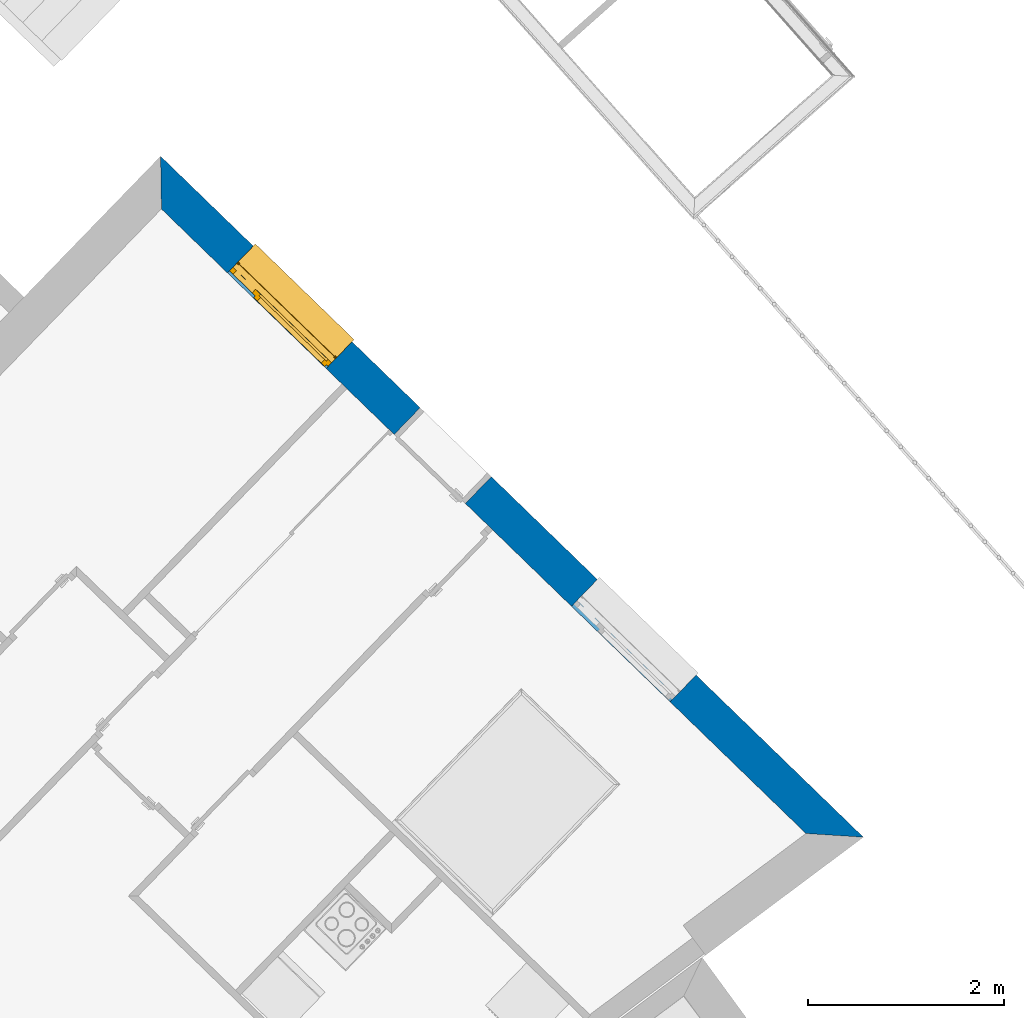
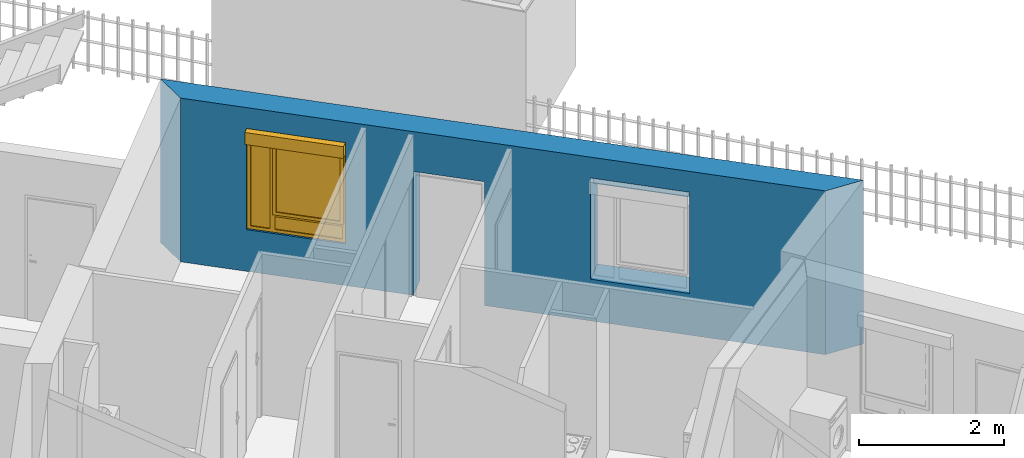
# One storey, part 23 of 195: 1 wall, 1 window, 3 openings.
"""IFC2X3 building model written with IfcOpenShell, lengths in metres."""

import ifcopenshell
import ifcopenshell.guid

model = None  # the IFC model being written
_history = None  # IfcOwnerHistory: only IFC2X3 demands one
_inside = {}  # id of a spatial element -> (the spatial element, [elements in it])
_under = {}  # id of a project, library or spatial element -> (it, [spatial elements below it])
_declared = {}  # id of a project -> (the project, [libraries it declares])
_typed = {}  # id of a type object -> (the type object, [elements of that type])
_made_of = {}  # id of a material, layer set ... -> (it, [elements and type objects made of it])


def new_model(schema):
    """Start an empty IFC model of exactly this schema.

    Asked for "IFC4X3", IfcOpenShell would pick the latest addendum, in which some entities
    have other attributes; the version numbers below select the first issue.
    IFC2X3 requires an IfcOwnerHistory on every rooted entity: one is made here for all.
    """
    global model, _history
    if schema == "IFC4X3":
        model = ifcopenshell.file(schema_version=(4, 3, 0, 0))
    else:
        model = ifcopenshell.file(schema=schema)
    _inside.clear()
    _under.clear()
    _declared.clear()
    _typed.clear()
    _made_of.clear()
    _history = None
    if model.schema == "IFC2X3":
        org = make("IfcOrganization", Name="unknown")
        user = make(
            "IfcPersonAndOrganization",
            ThePerson=make("IfcPerson", FamilyName="unknown"),
            TheOrganization=org,
        )
        app = make(
            "IfcApplication",
            ApplicationDeveloper=org,
            Version="unknown",
            ApplicationFullName="unknown",
            ApplicationIdentifier="unknown",
        )
        _history = make(
            "IfcOwnerHistory",
            OwningUser=user,
            OwningApplication=app,
            ChangeAction="ADDED",
            CreationDate=0,
        )
    return model


def make(cls, **values):
    """One entity of the class cls with the attributes given. An attribute that is None is left unset."""
    return model.create_entity(
        cls, **{name: value for name, value in values.items() if value is not None}
    )


def entity(cls, *values):
    """Any entity or typed value of the class cls, its attributes in the order of the schema. None: left unset."""
    e = model.create_entity(cls)
    for i, value in enumerate(values):
        if value is not None:
            e[i] = value
    return e


def rooted(cls, **values):
    """An entity with a GlobalId (a new one), such as an element, a storey or a relation."""
    return make(cls, GlobalId=ifcopenshell.guid.new(), OwnerHistory=_history, **values)


def si_unit(unit_type, name, prefix=None):
    """IfcSIUnit, for example si_unit("LENGTHUNIT", "METRE", prefix="MILLI")."""
    return make("IfcSIUnit", UnitType=unit_type, Prefix=prefix, Name=name)


def converted_unit(unit_type, name, factor, base, dimensions=None, offset=None):
    """IfcConversionBasedUnit, such as the inch: factor (a typed value) times the base unit."""
    return make(
        "IfcConversionBasedUnit"
        if offset is None
        else "IfcConversionBasedUnitWithOffset",
        ConversionOffset=offset,
        Dimensions=None
        if dimensions is None
        else entity("IfcDimensionalExponents", *dimensions),
        UnitType=unit_type,
        Name=name,
        ConversionFactor=make(
            "IfcMeasureWithUnit", ValueComponent=factor, UnitComponent=base
        ),
    )


def derived_unit(unit_type, elements):
    """IfcDerivedUnit: a product of units, each with its exponent."""
    return make(
        "IfcDerivedUnit",
        Elements=[
            make("IfcDerivedUnitElement", Unit=unit, Exponent=power)
            for unit, power in elements
        ],
        UnitType=unit_type,
    )


def money_unit(currency):
    """IfcMonetaryUnit."""
    return make("IfcMonetaryUnit", Currency=currency)


def assignment(units):
    """IfcUnitAssignment: the units of a project."""
    return None if units is None else make("IfcUnitAssignment", Units=units)


def point(xyz):
    """IfcCartesianPoint."""
    return None if xyz is None else make("IfcCartesianPoint", Coordinates=xyz)


def direction(xyz):
    """IfcDirection."""
    return None if xyz is None else make("IfcDirection", DirectionRatios=xyz)


def frame(location, z_axis=None, x_axis=None):
    """IfcAxis2Placement3D, a coordinate frame: its origin and axes. An axis left out is left unset."""
    return make(
        "IfcAxis2Placement3D",
        Location=point(location),
        Axis=direction(z_axis),
        RefDirection=direction(x_axis),
    )


def frame_2d(location, x_axis=None):
    """IfcAxis2Placement2D, a coordinate frame in the plane: its origin and x axis."""
    return make(
        "IfcAxis2Placement2D", Location=point(location), RefDirection=direction(x_axis)
    )


def origin_with_axes():
    """The frame at (0, 0, 0) with the z axis (0, 0, 1) and the x axis (1, 0, 0) written out."""
    return frame((0.0, 0.0, 0.0), z_axis=(0.0, 0.0, 1.0), x_axis=(1.0, 0.0, 0.0))


def origin_2d_with_axis():
    """The frame at (0, 0) in the plane with the x axis (1, 0) written out."""
    return frame_2d((0.0, 0.0), x_axis=(1.0, 0.0))


def place(relative_to, where):
    """IfcLocalPlacement: puts the frame where relative to a parent placement (None: the world)."""
    return make(
        "IfcLocalPlacement", PlacementRelTo=relative_to, RelativePlacement=where
    )


def context(
    kind, dimensions, precision=None, world=None, true_north=None, identifier=None
):
    """IfcGeometricRepresentationContext, for example the 3D "Model" context."""
    return make(
        "IfcGeometricRepresentationContext",
        ContextIdentifier=identifier,
        ContextType=kind,
        CoordinateSpaceDimension=dimensions,
        Precision=precision,
        WorldCoordinateSystem=world,
        TrueNorth=true_north,
    )


def subcontext(parent, identifier, kind, view, scale=None):
    """IfcGeometricRepresentationSubContext, for example "Body" below "Model"."""
    return make(
        "IfcGeometricRepresentationSubContext",
        ContextIdentifier=identifier,
        ContextType=kind,
        ParentContext=parent,
        TargetScale=scale,
        TargetView=view,
    )


def project(units=None, contexts=None):
    """IfcProject with its units and contexts."""
    return rooted(
        "IfcProject",
        Name="project",
        RepresentationContexts=contexts,
        UnitsInContext=assignment(units),
    )


def spatial(cls, under=None, at=None, **own):
    """A site, building, storey or space (cls), placed at a placement, below another one or the project."""
    s = rooted(cls, ObjectPlacement=at, **own)
    if under is not None:
        _under.setdefault(under.id(), (under, []))[1].append(s)
    return s


def polyline(points):
    """IfcPolyline through the points."""
    return make("IfcPolyline", Points=[point(p) for p in points])


def profile(cls, at=None, kind="AREA", **sizes):
    """A parametric profile (cls). Its sizes go by their IFC names, for example OverallWidth=200.0."""
    return make(cls, ProfileType=kind, Position=at, **sizes)


def rectangle(**sizes):
    """IfcRectangleProfileDef."""
    return profile("IfcRectangleProfileDef", **sizes)


def outline(outer, holes=None, kind="AREA"):
    """IfcArbitraryClosedProfileDef: a profile drawn as a closed curve; with holes, ...WithVoids."""
    if holes is None:
        return make("IfcArbitraryClosedProfileDef", ProfileType=kind, OuterCurve=outer)
    return make(
        "IfcArbitraryProfileDefWithVoids",
        ProfileType=kind,
        OuterCurve=outer,
        InnerCurves=holes,
    )


def extrude(swept, where, along, depth):
    """IfcExtrudedAreaSolid: the profile swept, set in the frame where, extruded along a direction by depth."""
    return make(
        "IfcExtrudedAreaSolid",
        SweptArea=swept,
        Position=where,
        ExtrudedDirection=direction(along),
        Depth=depth,
    )


def faces_of(points, faces, orient=None, outer=None):
    """IfcFace entities. A face is a list of loops; a loop is a list of indices into points, from 0.

    orient and outer hold one flag for each loop. By default every Orientation is true, the
    first loop of a face is its IfcFaceOuterBound and the others are IfcFaceBound.
    """
    made = []
    for i, loops in enumerate(faces):
        bounds = []
        for j, loop in enumerate(loops):
            is_outer = j == 0 if outer is None else outer[i][j]
            bounds.append(
                make(
                    "IfcFaceOuterBound" if is_outer else "IfcFaceBound",
                    Bound=make("IfcPolyLoop", Polygon=[points[k] for k in loop]),
                    Orientation=True if orient is None else orient[i][j],
                )
            )
        made.append(make("IfcFace", Bounds=bounds))
    return made


def open_shell(faces, orient=None, outer=None):
    """The faces of one IfcOpenShell. surface_model builds it on its shared points."""
    return ("IfcOpenShell", faces, orient, outer)


def faceted_brep(points, faces, orient=None, outer=None, voids=None):
    """IfcFacetedBrep: a solid bounded by flat faces; with voids (closed shells), ...WithVoids."""
    shared = [point(p) for p in points]
    hull = make("IfcClosedShell", CfsFaces=faces_of(shared, faces, orient, outer))
    if voids is None:
        return make("IfcFacetedBrep", Outer=hull)
    return make(
        "IfcFacetedBrepWithVoids",
        Outer=hull,
        Voids=[
            make(cls, CfsFaces=faces_of(shared, fs, o, b)) for cls, fs, o, b in voids
        ],
    )


def surface_model(cls, points, shells):
    """IfcFaceBasedSurfaceModel or IfcShellBasedSurfaceModel (cls): surfaces that need not close."""
    shared = [point(p) for p in points]
    made = [make(c, CfsFaces=faces_of(shared, fs, o, b)) for c, fs, o, b in shells]
    if cls == "IfcFaceBasedSurfaceModel":
        return make(cls, FbsmFaces=made)
    return make(cls, SbsmBoundary=made)


def shape(context_of_items, identifier, shape_type, items):
    """IfcShapeRepresentation: the items that make up one representation, for example the "Body"."""
    return make(
        "IfcShapeRepresentation",
        ContextOfItems=context_of_items,
        RepresentationIdentifier=identifier,
        RepresentationType=shape_type,
        Items=items,
    )


def source(mapping_origin, context_of_items, identifier, shape_type, items):
    """IfcRepresentationMap: a shape defined once, which mapped items show again and again."""
    return make(
        "IfcRepresentationMap",
        MappingOrigin=mapping_origin,
        MappedRepresentation=shape(context_of_items, identifier, shape_type, items),
    )


def transform(
    local_origin,
    x_axis=None,
    y_axis=None,
    z_axis=None,
    scale=None,
    scale2=None,
    scale3=None,
    uniform=True,
):
    """IfcCartesianTransformationOperator3D, or its non-uniform kind. x_axis, y_axis, z_axis: its Axis1, 2, 3."""
    if uniform:
        return make(
            "IfcCartesianTransformationOperator3D",
            Axis1=direction(x_axis),
            Axis2=direction(y_axis),
            LocalOrigin=point(local_origin),
            Scale=scale,
            Axis3=direction(z_axis),
        )
    return make(
        "IfcCartesianTransformationOperator3DnonUniform",
        Axis1=direction(x_axis),
        Axis2=direction(y_axis),
        LocalOrigin=point(local_origin),
        Scale=scale,
        Axis3=direction(z_axis),
        Scale2=scale2,
        Scale3=scale3,
    )


def mapped(mapping_source, mapping_target):
    """IfcMappedItem: shows the shape of a source again, moved by a transform."""
    return make(
        "IfcMappedItem", MappingSource=mapping_source, MappingTarget=mapping_target
    )


def material(Name=None, Category=None):
    """IfcMaterial."""
    return make("IfcMaterial", Name=Name, Category=Category)


def layer(
    of_material, thickness, ventilated=None, Name=None, Category=None, Priority=None
):
    """IfcMaterialLayer: one layer of a wall or slab, of a material (None: an air gap)."""
    return make(
        "IfcMaterialLayer",
        Material=of_material,
        LayerThickness=thickness,
        IsVentilated=ventilated,
        Name=Name,
        Category=Category,
        Priority=Priority,
    )


def layer_set(layers, Name=None):
    """IfcMaterialLayerSet."""
    return make("IfcMaterialLayerSet", MaterialLayers=layers, LayerSetName=Name)


def layer_usage(for_layer_set, set_direction, sense, offset, extent=None):
    """IfcMaterialLayerSetUsage: how a layer set lies in its element."""
    return make(
        "IfcMaterialLayerSetUsage",
        ForLayerSet=for_layer_set,
        LayerSetDirection=set_direction,
        DirectionSense=sense,
        OffsetFromReferenceLine=offset,
        ReferenceExtent=extent,
    )


def made_of(thing, what):
    """Note that an element or type object is made of a material, layer set ...; save() writes the relation."""
    if what is not None:
        _made_of.setdefault(what.id(), (what, []))[1].append(thing)
    return thing


def type_object(cls, material=None, **own):
    """A type object (cls), such as IfcWallType, which elements share."""
    return made_of(rooted(cls, **own), material)


def element(
    cls,
    number,
    at=None,
    inside=None,
    cuts=None,
    type_object=None,
    material=None,
    context=None,
    identifier="Body",
    shape_type=None,
    held_by="IfcProductDefinitionShape",
    body=None,
    shapes=None,
    **own,
):
    """One element of the class cls, such as IfcWall. Its Tag is "e" and its number.

    at: its placement. inside: the storey or other place that contains it. cuts: it is an
    opening in that element (IfcRelVoidsElement). A single representation is given by context,
    identifier, shape_type and body (its items); several are given by shapes. held_by: the class
    of the entity that holds the representations. save() writes the other relations.
    """
    e = rooted(cls, Tag="e%d" % number, ObjectPlacement=at, **own)
    if body is not None:
        shapes = [shape(context, identifier, shape_type, body)]
    if shapes is not None:
        e.Representation = make(held_by, Representations=shapes)
    if inside is not None:
        _inside.setdefault(inside.id(), (inside, []))[1].append(e)
    if cuts is not None:
        rooted(
            "IfcRelVoidsElement", RelatingBuildingElement=cuts, RelatedOpeningElement=e
        )
    if type_object is not None:
        _typed.setdefault(type_object.id(), (type_object, []))[1].append(e)
    return made_of(e, material)


def fill(opening, filler):
    """IfcRelFillsElement: the door or window that sits in an opening."""
    return rooted(
        "IfcRelFillsElement",
        RelatingOpeningElement=opening,
        RelatedBuildingElement=filler,
    )


def aggregate(whole, parts):
    """IfcRelAggregates: a whole, such as a stair, and the parts it consists of."""
    return rooted("IfcRelAggregates", RelatingObject=whole, RelatedObjects=parts)


def save(model, path):
    """Write the relations noted so far, then the file.

    IfcRelAggregates (storeys below a building ...), IfcRelContainedInSpatialStructure (elements
    in a storey), IfcRelDefinesByType, IfcRelAssociatesMaterial and IfcRelDeclares: one each for
    every whole, place, type object, material and project.
    """
    for whole, parts in _under.values():
        aggregate(whole, parts)
    for where, things in _inside.values():
        rooted(
            "IfcRelContainedInSpatialStructure",
            RelatedElements=things,
            RelatingStructure=where,
        )
    for kind, things in _typed.values():
        rooted("IfcRelDefinesByType", RelatedObjects=things, RelatingType=kind)
    for what, things in _made_of.values():
        rooted("IfcRelAssociatesMaterial", RelatedObjects=things, RelatingMaterial=what)
    for by, libraries in _declared.values():
        rooted("IfcRelDeclares", RelatingContext=by, RelatedDefinitions=libraries)
    model.write(path)


model = new_model("IFC2X3")

# Units and contexts
model_context = context("Model", 3, precision=1e-05, world=origin_with_axes(), true_north=direction((0.0, 1.0)))
body_context = subcontext(model_context, "Body", "Model", "MODEL_VIEW")
ifc_project = project(units=[si_unit("LENGTHUNIT", "METRE"), si_unit("AREAUNIT", "SQUARE_METRE"), si_unit("VOLUMEUNIT", "CUBIC_METRE"), converted_unit("PLANEANGLEUNIT", "DEGREE", entity("IfcPlaneAngleMeasure", 0.0174532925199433), si_unit("PLANEANGLEUNIT", "RADIAN"), dimensions=[0, 0, 0, 0, 0, 0, 0]), money_unit("CHF"), converted_unit("TIMEUNIT", "Year", entity("IfcTimeMeasure", 31557600.0), si_unit("TIMEUNIT", "SECOND"), dimensions=[0, 0, 1, 0, 0, 0, 0]), si_unit("MASSUNIT", "GRAM", prefix="KILO"), si_unit("THERMODYNAMICTEMPERATUREUNIT", "DEGREE_CELSIUS"), si_unit("LUMINOUSINTENSITYUNIT", "LUMEN"), si_unit("ENERGYUNIT", "JOULE", prefix="MEGA"), derived_unit("THERMALCONDUCTANCEUNIT", [(si_unit("POWERUNIT", "WATT"), 1), (si_unit("LENGTHUNIT", "METRE"), -1), (si_unit("THERMODYNAMICTEMPERATUREUNIT", "KELVIN"), -1)]), derived_unit("SPECIFICHEATCAPACITYUNIT", [(si_unit("ENERGYUNIT", "JOULE"), 1), (si_unit("MASSUNIT", "GRAM", prefix="KILO"), -1), (si_unit("THERMODYNAMICTEMPERATUREUNIT", "KELVIN"), -1)]), derived_unit("MASSDENSITYUNIT", [(si_unit("MASSUNIT", "GRAM", prefix="KILO"), 1), (si_unit("VOLUMEUNIT", "CUBIC_METRE"), -1)])], contexts=[model_context])

# Site, building, storey
site_placement = place(None, origin_with_axes())
site = spatial("IfcSite", under=ifc_project, at=site_placement, Name="Site", CompositionType="ELEMENT")
building_placement = place(site_placement, origin_with_axes())
building = spatial("IfcBuilding", under=site, at=building_placement, Name="Bâtiment", CompositionType="ELEMENT")
storey_placement = place(building_placement, origin_with_axes())
storey = spatial("IfcBuildingStorey", under=building, at=storey_placement, Name="rdc", CompositionType="ELEMENT", Elevation=0.0)

# Wall, openings, window
ifc_material_1 = material(Name="Parpaing 312445824")
ifc_layer_1 = layer(ifc_material_1, 0.22, ventilated="UNKNOWN")
ifc_material_2 = material(Name="Isolant styromousse 301821074")
ifc_layer_2 = layer(ifc_material_2, 0.16, ventilated="UNKNOWN")
ifc_layer_set = layer_set([ifc_layer_1, ifc_layer_2], Name="isol int 22+16 0836643197")
ifc_layer_usage = layer_usage(ifc_layer_set, "AXIS2", "NEGATIVE", 0.0)
wall_type = type_object("IfcWallType", Name="isol int 22+16 0836643197 380", PredefinedType="NOTDEFINED")
wall_placement = place(storey_placement, frame((9531.989867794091, -1061.560379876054, 57.7), z_axis=(0.0, 0.0, 1.0), x_axis=(0.7181763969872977, -0.6958610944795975, 0.0)))
wall = element("IfcWallStandardCase", 1, at=wall_placement, inside=storey, type_object=wall_type, material=ifc_layer_usage, Name="Mur-116", context=body_context, shape_type="SweptSolid", body=[
    extrude(outline(polyline([(0.3800000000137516, -0.3799999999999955), (9.524551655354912, -0.3800000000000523), (9.970619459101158, 0.0), (0.0, 0.0), (0.3800000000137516, -0.3799999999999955)])), origin_with_axes(), (0.0, 0.0, 1.0), 2.75),
])
opening_1_placement = place(wall_placement, frame((6.896864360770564, 0.0, 0.7000000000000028), z_axis=(0.0, 0.0, 1.0), x_axis=(1.0, 0.0, 0.0)))
element("IfcOpeningElement", 2, at=opening_1_placement, cuts=wall, Name="Fen-045", context=body_context, shape_type="Brep", body=[
    faceted_brep([(-0.7000000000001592, -0.2200000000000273, 1.5), (0.6999999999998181, -0.2200000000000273, 1.5), (0.6999999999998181, 4.983827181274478, 1.5), (-0.7000000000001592, 4.983827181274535, 1.5), (-0.7000000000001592, -0.2200000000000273, 1.700000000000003), (0.6999999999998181, -0.2200000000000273, 1.700000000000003), (0.6999999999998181, -0.3000000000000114, 1.5), (0.6999999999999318, -0.3000000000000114, 0.0), (0.6999999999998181, 4.983827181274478, 0.0), (-0.7000000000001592, 4.983827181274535, 0.0), (-0.7000000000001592, -0.2999999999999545, 1.5), (-0.7000000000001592, -0.3000000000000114, 0.0), (-0.7000000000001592, -0.4799999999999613, 1.5), (-0.7000000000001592, -0.4799999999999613, 1.700000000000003), (0.6999999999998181, -0.4799999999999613, 1.700000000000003), (0.6999999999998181, -0.4799999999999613, 1.5), (0.6999999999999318, -5.36382718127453, 1.5), (0.6999999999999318, -5.36382718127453, 0.0), (-0.7000000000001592, -5.363827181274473, 0.0), (-0.7000000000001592, -5.363827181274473, 1.5)], [[[0, 1, 2, 3]], [[1, 0, 4, 5]], [[1, 6, 7, 8, 2]], [[2, 8, 9, 3]], [[10, 0, 3, 9, 11]], [[0, 10, 12, 13, 4]], [[4, 13, 14, 5]], [[6, 1, 5, 14, 15]], [[6, 15, 16, 17, 7]], [[7, 11, 9, 8]], [[12, 10, 11, 18, 19]], [[12, 15, 14, 13]], [[15, 12, 19, 16]], [[19, 18, 17, 16]], [[11, 7, 17, 18]]]),
])
opening_2_placement = place(wall_placement, frame((2.01605944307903, 0.0, 0.7000000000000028), z_axis=(0.0, 0.0, 1.0), x_axis=(1.0, 0.0, 0.0)))
opening_2 = element("IfcOpeningElement", 3, at=opening_2_placement, cuts=wall, Name="Fen-045", context=body_context, shape_type="Brep", body=[
    faceted_brep([(-0.7000000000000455, -0.2200000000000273, 1.5), (0.6999999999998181, -0.2200000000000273, 1.5), (0.6999999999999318, 4.983827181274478, 1.5), (-0.7000000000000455, 4.983827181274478, 1.5), (-0.7000000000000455, -0.2200000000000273, 1.700000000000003), (0.6999999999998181, -0.2200000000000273, 1.700000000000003), (0.6999999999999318, -0.3000000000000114, 1.5), (0.6999999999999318, -0.3000000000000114, 0.0), (0.6999999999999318, 4.983827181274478, 0.0), (-0.7000000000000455, 4.983827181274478, 0.0), (-0.7000000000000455, -0.2999999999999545, 1.5), (-0.7000000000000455, -0.3000000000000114, 0.0), (-0.7000000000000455, -0.4799999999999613, 1.5), (-0.7000000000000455, -0.4799999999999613, 1.700000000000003), (0.6999999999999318, -0.4799999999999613, 1.700000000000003), (0.6999999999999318, -0.4799999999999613, 1.5), (0.6999999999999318, -5.363827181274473, 1.5), (0.6999999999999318, -5.363827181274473, 0.0), (-0.7000000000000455, -5.363827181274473, 0.0), (-0.7000000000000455, -5.363827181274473, 1.5)], [[[0, 1, 2, 3]], [[1, 0, 4, 5]], [[1, 6, 7, 8, 2]], [[2, 8, 9, 3]], [[10, 0, 3, 9, 11]], [[0, 10, 12, 13, 4]], [[4, 13, 14, 5]], [[6, 1, 5, 14, 15]], [[6, 15, 16, 17, 7]], [[7, 11, 9, 8]], [[12, 10, 11, 18, 19]], [[12, 15, 14, 13]], [[15, 12, 19, 16]], [[19, 18, 17, 16]], [[11, 7, 17, 18]]]),
])
opening_3_placement = place(wall_placement, frame((4.187148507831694, 0.0, 0.0), z_axis=(0.0, 0.0, 1.0), x_axis=(1.0, 0.0, 0.0)))
element("IfcOpeningElement", 4, at=opening_3_placement, cuts=wall, Name="Por-297", context=body_context, shape_type="SweptSolid", body=[
    extrude(rectangle(XDim=1.01000001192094, YDim=2.079999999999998, at=origin_2d_with_axis()), frame((-5.960487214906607e-09, 0.3799999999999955, 1.039999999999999), z_axis=(0.0, -1.0, 0.0), x_axis=(-1.0, 0.0, 0.0)), (0.0, 0.0, 1.0), 0.76),
])
window_style = type_object("IfcWindowStyle", Name="Fenêtre variable 27", ConstructionType="NOTDEFINED", OperationType="TRIPLE_PANEL_RIGHT", ParameterTakesPrecedence=False, Sizeable=False)
shared_shape = source(origin_with_axes(), body_context, "Body", "SurfaceModel", [
    surface_model("IfcShellBasedSurfaceModel", [(-0.7, -0.05100000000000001, 0.05), (-0.7, -0.05100000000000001, 0.04), (0.7, -0.05100000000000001, 0.04000000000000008), (0.7, -0.05100000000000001, 0.05000000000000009), (-0.7, -0.3799999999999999, 0.02899999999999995), (0.7, -0.3799999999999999, 0.02900000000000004), (-0.7, -0.3799999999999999, 0.008999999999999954), (0.7, -0.3799999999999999, 0.00900000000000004), (-0.7, -0.3699999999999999, 0.01899999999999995), (0.7, -0.3699999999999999, 0.01900000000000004)], [open_shell([[[0, 1, 2, 3]], [[1, 4, 5, 2]], [[4, 6, 7, 5]], [[6, 8, 9, 7]]])]),
    faceted_brep([(-0.7, -0.13, 1.7), (-0.697, -0.13, 1.7), (-0.697, 0.13, 1.7), (-0.7, 0.13, 1.7), (-0.7, -0.13, 1.5), (-0.697, -0.13, 1.5), (-0.697, 0.13, 1.5), (-0.7, 0.13, 1.5)], [[[0, 1, 2, 3]], [[4, 5, 1, 0]], [[1, 5, 6, 2]], [[3, 2, 6, 7]], [[0, 3, 7, 4]], [[7, 6, 5, 4]]]),
    faceted_brep([(0.6970000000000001, -0.1299999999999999, 1.7), (0.7000000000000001, -0.1299999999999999, 1.7), (0.7000000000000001, 0.1300000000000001, 1.7), (0.6970000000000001, 0.1300000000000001, 1.7), (0.6970000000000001, -0.1299999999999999, 1.5), (0.7000000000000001, -0.1299999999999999, 1.5), (0.7000000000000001, 0.1300000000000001, 1.5), (0.6970000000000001, 0.1300000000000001, 1.5)], [[[0, 1, 2, 3]], [[4, 5, 1, 0]], [[1, 5, 6, 2]], [[3, 2, 6, 7]], [[0, 3, 7, 4]], [[7, 6, 5, 4]]]),
    faceted_brep([(-0.697, -0.13, 1.5), (0.697, -0.1299999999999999, 1.5), (0.697, -0.1299999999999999, 1.7), (-0.697, -0.13, 1.7), (-0.697, -0.127, 1.5), (0.697, -0.1269999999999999, 1.5), (0.697, -0.1269999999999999, 1.697), (0.697, 0.1270000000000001, 1.697), (0.697, 0.1270000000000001, 1.503), (0.697, -0.1079999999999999, 1.503), (0.697, -0.1079999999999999, 1.5), (0.697, 0.1300000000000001, 1.5), (0.697, 0.1300000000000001, 1.7), (-0.697, 0.13, 1.7), (-0.697, 0.13, 1.5), (-0.697, -0.108, 1.5), (-0.697, -0.108, 1.503), (-0.697, 0.127, 1.503), (-0.697, 0.127, 1.697), (-0.697, -0.127, 1.697)], [[[0, 1, 2, 3]], [[4, 5, 1, 0]], [[1, 5, 6, 7, 8, 9, 10, 11, 12, 2]], [[3, 2, 12, 13]], [[0, 3, 13, 14, 15, 16, 17, 18, 19, 4]], [[19, 6, 5, 4]], [[18, 7, 6, 19]], [[17, 8, 7, 18]], [[16, 9, 8, 17]], [[15, 10, 9, 16]], [[14, 11, 10, 15]], [[13, 12, 11, 14]]]),
    faceted_brep([(-0.694, -0.08075423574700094, 1.585760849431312), (-0.694, -0.08200000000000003, 1.6), (-0.694, -0.0807542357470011, 1.614239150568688), (-0.694, -0.07705479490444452, 1.628045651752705), (-0.694, -0.07101408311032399, 1.641), (-0.694, -0.06281564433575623, 1.652708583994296), (-0.694, -0.05270858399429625, 1.662815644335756), (-0.694, -0.04100000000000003, 1.671014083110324), (-0.694, -0.02804565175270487, 1.677054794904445), (-0.694, -0.01423915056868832, 1.680754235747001), (-0.694, 0.0, 1.682), (-0.694, 0.01423915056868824, 1.680754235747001), (-0.694, 0.02804565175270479, 1.677054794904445), (-0.694, 0.04099999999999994, 1.671014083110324), (-0.694, 0.05270858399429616, 1.662815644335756), (-0.694, 0.06281564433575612, 1.652708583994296), (-0.694, 0.07101408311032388, 1.641), (-0.694, 0.0770547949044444, 1.628045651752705), (-0.694, 0.08075423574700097, 1.614239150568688), (-0.694, 0.0819999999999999, 1.6), (-0.694, 0.08075423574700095, 1.585760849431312), (-0.694, 0.07705479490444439, 1.571954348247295), (-0.694, 0.07101408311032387, 1.559), (-0.694, 0.06281564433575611, 1.547291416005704), (-0.694, 0.05270858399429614, 1.537184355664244), (-0.694, 0.04099999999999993, 1.528985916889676), (-0.694, 0.02804565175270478, 1.522945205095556), (-0.694, 0.01423915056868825, 1.519245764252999), (-0.694, 0.0, 1.518), (-0.694, -0.01423915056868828, 1.519245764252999), (-0.694, -0.02804565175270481, 1.522945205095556), (-0.694, -0.04099999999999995, 1.528985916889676), (-0.694, -0.05270858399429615, 1.537184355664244), (-0.694, -0.06281564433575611, 1.547291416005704), (-0.694, -0.07101408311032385, 1.559), (-0.694, -0.07705479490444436, 1.571954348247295), (0.694, -0.08075423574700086, 1.585760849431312), (0.694, -0.08199999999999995, 1.6), (0.694, -0.08075423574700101, 1.614239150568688), (0.694, -0.07705479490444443, 1.628045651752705), (0.694, -0.07101408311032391, 1.641), (0.694, -0.06281564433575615, 1.652708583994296), (0.694, -0.05270858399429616, 1.662815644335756), (0.694, -0.04099999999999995, 1.671014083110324), (0.694, -0.02804565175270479, 1.677054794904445), (0.694, -0.01423915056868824, 1.680754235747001), (0.694, 0.0, 1.682), (0.694, 0.01423915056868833, 1.680754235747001), (0.694, 0.02804565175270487, 1.677054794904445), (0.694, 0.04100000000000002, 1.671014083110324), (0.694, 0.05270858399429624, 1.662815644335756), (0.694, 0.0628156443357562, 1.652708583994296), (0.694, 0.07101408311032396, 1.641), (0.694, 0.07705479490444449, 1.628045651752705), (0.694, 0.08075423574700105, 1.614239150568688), (0.694, 0.08199999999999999, 1.6), (0.694, 0.08075423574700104, 1.585760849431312), (0.694, 0.07705479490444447, 1.571954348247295), (0.694, 0.07101408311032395, 1.559), (0.694, 0.06281564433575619, 1.547291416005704), (0.694, 0.05270858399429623, 1.537184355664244), (0.694, 0.04100000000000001, 1.528985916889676), (0.694, 0.02804565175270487, 1.522945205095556), (0.694, 0.01423915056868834, 1.519245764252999), (0.694, 0.0, 1.518), (0.694, -0.0142391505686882, 1.519245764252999), (0.694, -0.02804565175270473, 1.522945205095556), (0.694, -0.04099999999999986, 1.528985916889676), (0.694, -0.05270858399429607, 1.537184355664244), (0.694, -0.06281564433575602, 1.547291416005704), (0.694, -0.07101408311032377, 1.559), (0.694, -0.07705479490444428, 1.571954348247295)], [[[0, 1, 2, 3, 4, 5, 6, 7, 8, 9, 10, 11, 12, 13, 14, 15, 16, 17, 18, 19, 20, 21, 22, 23, 24, 25, 26, 27, 28, 29, 30, 31, 32, 33, 34, 35]], [[0, 36, 37, 1]], [[1, 37, 38, 2]], [[2, 38, 39, 3]], [[3, 39, 40, 4]], [[4, 40, 41, 5]], [[5, 41, 42, 6]], [[6, 42, 43, 7]], [[7, 43, 44, 8]], [[8, 44, 45, 9]], [[9, 45, 46, 10]], [[10, 46, 47, 11]], [[11, 47, 48, 12]], [[12, 48, 49, 13]], [[13, 49, 50, 14]], [[14, 50, 51, 15]], [[15, 51, 52, 16]], [[16, 52, 53, 17]], [[17, 53, 54, 18]], [[18, 54, 55, 19]], [[19, 55, 56, 20]], [[20, 56, 57, 21]], [[21, 57, 58, 22]], [[22, 58, 59, 23]], [[23, 59, 60, 24]], [[24, 60, 61, 25]], [[25, 61, 62, 26]], [[26, 62, 63, 27]], [[27, 63, 64, 28]], [[28, 64, 65, 29]], [[29, 65, 66, 30]], [[30, 66, 67, 31]], [[31, 67, 68, 32]], [[32, 68, 69, 33]], [[33, 69, 70, 34]], [[34, 70, 71, 35]], [[35, 71, 36, 0]], [[36, 71, 70, 69, 68, 67, 66, 65, 64, 63, 62, 61, 60, 59, 58, 57, 56, 55, 54, 53, 52, 51, 50, 49, 48, 47, 46, 45, 44, 43, 42, 41, 40, 39, 38, 37]]]),
    faceted_brep([(0.7, -0.105, 0.03), (0.7, -0.1049999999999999, 1.5), (0.7, -0.1299999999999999, 1.5), (0.7, -0.13, 0.03), (0.6749999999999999, -0.105, 0.03), (0.6749999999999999, -0.1049999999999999, 1.5), (0.6749999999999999, -0.1079999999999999, 1.5), (0.697, -0.1079999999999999, 1.5), (0.697, -0.1269999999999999, 1.5), (0.6749999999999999, -0.1269999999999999, 1.5), (0.6749999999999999, -0.1299999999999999, 1.5), (0.6749999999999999, -0.13, 0.03), (0.6749999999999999, -0.127, 0.03), (0.697, -0.127, 0.03), (0.697, -0.108, 0.03), (0.6749999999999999, -0.108, 0.03)], [[[0, 1, 2, 3]], [[4, 5, 1, 0]], [[1, 5, 6, 7, 8, 9, 10, 2]], [[3, 2, 10, 11]], [[0, 3, 11, 12, 13, 14, 15, 4]], [[15, 6, 5, 4]], [[14, 7, 6, 15]], [[13, 8, 7, 14]], [[12, 9, 8, 13]], [[11, 10, 9, 12]]]),
    faceted_brep([(-0.7, -0.105, 0.03), (-0.7, -0.13, 0.03), (-0.7, -0.1299999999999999, 1.5), (-0.7, -0.1049999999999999, 1.5), (-0.6749999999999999, -0.105, 0.03), (-0.6749999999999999, -0.108, 0.03), (-0.697, -0.108, 0.03), (-0.697, -0.127, 0.03), (-0.6749999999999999, -0.127, 0.03), (-0.6749999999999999, -0.13, 0.03), (-0.6749999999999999, -0.1299999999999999, 1.5), (-0.6749999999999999, -0.1269999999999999, 1.5), (-0.697, -0.1269999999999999, 1.5), (-0.697, -0.1079999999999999, 1.5), (-0.6749999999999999, -0.1079999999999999, 1.5), (-0.6749999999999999, -0.1049999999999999, 1.5)], [[[0, 1, 2, 3]], [[0, 4, 5, 6, 7, 8, 9, 1]], [[1, 9, 10, 2]], [[3, 2, 10, 11, 12, 13, 14, 15]], [[4, 0, 3, 15]], [[5, 4, 15, 14]], [[6, 5, 14, 13]], [[7, 6, 13, 12]], [[8, 7, 12, 11]], [[9, 8, 11, 10]]]),
    surface_model("IfcShellBasedSurfaceModel", [(-0.697, -0.115, 1.6), (0.697, -0.1149999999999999, 1.6), (0.697, -0.1199999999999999, 1.6), (-0.697, -0.12, 1.6), (-0.697, -0.115, 1.6), (-0.697, -0.12, 1.6), (0.697, -0.12, 1.6), (0.697, -0.1149999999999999, 1.6)], [open_shell([[[0, 1, 2, 3]], [[4, 5, 6, 7]]])]),
    faceted_brep([(-0.697, -0.115, 1.6), (0.697, -0.1149999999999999, 1.6), (0.697, -0.1166666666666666, 1.583333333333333), (-0.697, -0.1166666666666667, 1.583333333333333), (-0.697, -0.12, 1.6), (0.697, -0.1199999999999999, 1.6), (0.697, -0.1216666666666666, 1.583333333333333), (0.697, -0.1216666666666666, 1.566666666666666), (0.697, -0.1199999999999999, 1.55), (0.697, -0.1149999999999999, 1.55), (0.697, -0.1166666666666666, 1.566666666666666), (-0.697, -0.1166666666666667, 1.566666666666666), (-0.697, -0.115, 1.55), (-0.697, -0.12, 1.55), (-0.697, -0.1216666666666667, 1.566666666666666), (-0.697, -0.1216666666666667, 1.583333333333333)], [[[0, 1, 2, 3]], [[4, 5, 1, 0]], [[1, 5, 6, 7, 8, 9, 10, 2]], [[3, 2, 10, 11]], [[0, 3, 11, 12, 13, 14, 15, 4]], [[15, 6, 5, 4]], [[14, 7, 6, 15]], [[13, 8, 7, 14]], [[12, 9, 8, 13]], [[11, 10, 9, 12]]]),
    faceted_brep([(-0.697, -0.115, 1.55), (0.697, -0.1149999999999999, 1.55), (0.697, -0.1166666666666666, 1.533333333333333), (-0.697, -0.1166666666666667, 1.533333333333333), (-0.697, -0.12, 1.55), (0.697, -0.1199999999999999, 1.55), (0.697, -0.1216666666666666, 1.533333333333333), (0.697, -0.1216666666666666, 1.516666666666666), (0.697, -0.1199999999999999, 1.5), (0.697, -0.1149999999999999, 1.5), (0.697, -0.1166666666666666, 1.516666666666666), (-0.697, -0.1166666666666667, 1.516666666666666), (-0.697, -0.115, 1.5), (-0.697, -0.12, 1.5), (-0.697, -0.1216666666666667, 1.516666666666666), (-0.697, -0.1216666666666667, 1.533333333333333)], [[[0, 1, 2, 3]], [[4, 5, 1, 0]], [[1, 5, 6, 7, 8, 9, 10, 2]], [[3, 2, 10, 11]], [[0, 3, 11, 12, 13, 14, 15, 4]], [[15, 6, 5, 4]], [[14, 7, 6, 15]], [[13, 8, 7, 14]], [[12, 9, 8, 13]], [[11, 10, 9, 12]]]),
    faceted_brep([(-0.6749999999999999, 0.0, 1.45), (-0.7, 0.0, 1.45), (-0.7, -0.05000000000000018, 1.45), (-0.6499999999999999, -0.05000000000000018, 1.45), (-0.6499999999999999, -0.02500000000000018, 1.45), (-0.6749999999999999, -0.02500000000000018, 1.45), (-0.6749999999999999, 0.0, 0.3099999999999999), (-0.6499999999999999, 0.0, 0.3099999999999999), (-0.6499999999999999, 0.0, 0.265), (-0.6499999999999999, 0.0, 0.05000000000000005), (-0.7, 0.0, 0.05000000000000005), (-0.7, -0.05000000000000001, 0.05000000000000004), (-0.6499999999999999, -0.05000000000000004, 0.335), (-0.6499999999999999, -0.05000000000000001, 0.05000000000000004), (-0.6499999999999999, -0.05000000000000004, 0.265), (-0.6499999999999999, -0.02500000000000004, 0.335), (-0.6499999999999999, -0.02500000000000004, 0.3099999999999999), (-0.6749999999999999, -0.02500000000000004, 0.3099999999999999)], [[[0, 1, 2, 3, 4, 5]], [[6, 7, 8, 9, 10, 1, 0]], [[1, 10, 11, 2]], [[12, 3, 2, 11, 13, 14]], [[4, 3, 12, 15]], [[15, 16, 17, 5, 4]], [[5, 17, 6, 0]], [[6, 17, 16, 7]], [[16, 15, 12, 14, 8, 7]], [[9, 8, 14, 13]], [[10, 9, 13, 11]]]),
    faceted_brep([(0.3068894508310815, -0.02500000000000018, 1.45), (0.3068894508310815, -0.05000000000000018, 1.45), (0.3768894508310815, -0.05000000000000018, 1.45), (0.3768894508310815, 0.0, 1.45), (0.3318894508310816, 0.0, 1.45), (0.3318894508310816, -0.02500000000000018, 1.45), (0.3068894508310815, -0.02500000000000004, 0.335), (0.3068894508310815, -0.05000000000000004, 0.335), (0.3068894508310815, -0.05000000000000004, 0.265), (0.3068894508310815, -0.05000000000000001, 0.05000000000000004), (0.3768894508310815, -0.05000000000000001, 0.05000000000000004), (0.3768894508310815, 0.0, 0.05000000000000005), (0.3318894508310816, 0.0, 0.3099999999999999), (0.3068894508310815, 0.0, 0.05000000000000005), (0.3068894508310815, 0.0, 0.265), (0.3068894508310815, 0.0, 0.3099999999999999), (0.3318894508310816, -0.02500000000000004, 0.3099999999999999), (0.3068894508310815, -0.02500000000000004, 0.3099999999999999)], [[[0, 1, 2, 3, 4, 5]], [[6, 7, 1, 0]], [[8, 9, 10, 2, 1, 7]], [[11, 3, 2, 10]], [[12, 4, 3, 11, 13, 14, 15]], [[12, 16, 5, 4]], [[5, 16, 17, 6, 0]], [[17, 15, 14, 8, 7, 6]], [[14, 13, 9, 8]], [[13, 11, 10, 9]], [[15, 17, 16, 12]]]),
    faceted_brep([(-0.6499999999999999, -0.02500000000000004, 0.335), (-0.6499999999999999, -0.05000000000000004, 0.335), (0.3068894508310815, -0.05000000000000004, 0.335), (0.3068894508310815, -0.02500000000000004, 0.335), (-0.6499999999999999, -0.02500000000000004, 0.3099999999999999), (-0.6499999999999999, 0.0, 0.3099999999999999), (-0.6499999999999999, 0.0, 0.265), (-0.6499999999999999, -0.05000000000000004, 0.265), (0.3068894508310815, -0.05000000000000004, 0.265), (0.3068894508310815, -0.02500000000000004, 0.3099999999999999), (0.3068894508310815, 0.0, 0.265), (0.3068894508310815, 0.0, 0.3099999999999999)], [[[0, 1, 2, 3]], [[4, 5, 6, 7, 1, 0]], [[2, 1, 7, 8]], [[9, 3, 2, 8, 10, 11]], [[9, 4, 0, 3]], [[5, 4, 9, 11]], [[11, 10, 6, 5]], [[6, 10, 8, 7]]]),
    faceted_brep([(-0.6749999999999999, 0.0, 1.45), (-0.7, 0.0, 1.45), (-0.7, 0.0, 1.5), (0.7, 0.0, 1.5), (0.7, 0.0, 1.45), (0.6499999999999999, 0.0, 1.45), (0.3768894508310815, 0.0, 1.45), (0.3318894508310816, 0.0, 1.45), (0.3318894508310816, 0.0, 1.475), (-0.6749999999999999, 0.0, 1.475), (-0.6749999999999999, -0.02500000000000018, 1.45), (-0.6499999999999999, -0.02500000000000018, 1.45), (-0.6499999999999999, -0.05000000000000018, 1.45), (-0.7, -0.05000000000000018, 1.45), (-0.7, -0.05000000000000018, 1.5), (0.7, -0.05000000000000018, 1.5), (0.7, -0.05000000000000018, 1.45), (0.6499999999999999, -0.05000000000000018, 1.45), (0.3768894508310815, -0.05000000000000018, 1.45), (0.3318894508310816, -0.02500000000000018, 1.45), (0.3068894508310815, -0.05000000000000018, 1.45), (0.3068894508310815, -0.02500000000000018, 1.45), (0.3318894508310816, -0.02500000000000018, 1.475), (-0.6749999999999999, -0.02500000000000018, 1.475)], [[[0, 1, 2, 3, 4, 5, 6, 7, 8, 9]], [[10, 11, 12, 13, 1, 0]], [[2, 1, 13, 14]], [[3, 2, 14, 15]], [[4, 3, 15, 16]], [[5, 4, 16, 17]], [[6, 5, 17, 18]], [[19, 7, 6, 18, 20, 21]], [[7, 19, 22, 8]], [[8, 22, 23, 9]], [[9, 23, 10, 0]], [[21, 11, 10, 23, 22, 19]], [[21, 20, 12, 11]], [[18, 17, 16, 15, 14, 13, 12, 20]]]),
    faceted_brep([(0.6499999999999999, -0.05000000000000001, 0.05), (0.6499999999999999, 0.0, 0.05000000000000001), (0.7, 0.0, 0.05000000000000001), (0.7, -0.05000000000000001, 0.05), (0.6499999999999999, -0.05000000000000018, 1.45), (0.6499999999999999, 0.0, 1.45), (0.7, 0.0, 1.45), (0.7, -0.05000000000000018, 1.45)], [[[0, 1, 2, 3]], [[4, 5, 1, 0]], [[1, 5, 6, 2]], [[3, 2, 6, 7]], [[0, 3, 7, 4]], [[7, 6, 5, 4]]]),
    faceted_brep([(-0.6499999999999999, -0.05000000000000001, 0.05), (-0.6499999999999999, 0.0, 0.05000000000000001), (-0.7, 0.0, 0.05000000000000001), (-0.7, -0.05000000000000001, 0.05), (0.3068894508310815, -0.05000000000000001, 0.05), (0.3068894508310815, 0.0, 0.05000000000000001), (0.3768894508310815, 0.0, 0.05000000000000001), (0.6499999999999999, 0.0, 0.05000000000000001), (0.7, 0.0, 0.05000000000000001), (0.7, 0.0, 0.0), (-0.7, 0.0, 0.0), (-0.7, -0.05, 0.0), (0.7, -0.05, 0.0), (0.7, -0.05000000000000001, 0.05), (0.6499999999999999, -0.05000000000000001, 0.05), (0.3768894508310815, -0.05000000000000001, 0.05)], [[[0, 1, 2, 3]], [[4, 5, 1, 0]], [[1, 5, 6, 7, 8, 9, 10, 2]], [[3, 2, 10, 11]], [[0, 3, 11, 12, 13, 14, 15, 4]], [[15, 6, 5, 4]], [[14, 7, 6, 15]], [[13, 8, 7, 14]], [[12, 9, 8, 13]], [[11, 10, 9, 12]]]),
    faceted_brep([(-0.625, -0.02500000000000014, 1.425), (-0.625, 0.02499999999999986, 1.425), (-0.6749999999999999, 0.02499999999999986, 1.425), (-0.6749999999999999, -0.02500000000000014, 1.425), (-0.625, -0.02500000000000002, 0.3599999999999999), (-0.625, 0.02499999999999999, 0.3599999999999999), (-0.6749999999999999, 0.02499999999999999, 0.3599999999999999), (-0.6749999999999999, -0.02500000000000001, 0.3599999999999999)], [[[0, 1, 2, 3]], [[4, 5, 1, 0]], [[1, 5, 6, 2]], [[3, 2, 6, 7]], [[0, 3, 7, 4]], [[7, 6, 5, 4]]]),
    faceted_brep([(0.2818894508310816, -0.02500000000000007, 0.3599999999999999), (0.2818894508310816, 0.02499999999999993, 0.3599999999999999), (0.3318894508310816, 0.02499999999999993, 0.3599999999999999), (0.3318894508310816, -0.02500000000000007, 0.3599999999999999), (0.2818894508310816, -0.0250000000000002, 1.425), (0.2818894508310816, 0.0249999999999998, 1.425), (0.3318894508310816, 0.0249999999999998, 1.425), (0.3318894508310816, -0.0250000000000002, 1.425)], [[[0, 1, 2, 3]], [[4, 5, 1, 0]], [[1, 5, 6, 2]], [[3, 2, 6, 7]], [[0, 3, 7, 4]], [[7, 6, 5, 4]]]),
    faceted_brep([(0.3318894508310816, -0.02500000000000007, 0.3099999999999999), (0.3318894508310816, 0.02499999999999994, 0.3099999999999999), (0.3318894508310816, 0.02499999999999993, 0.3599999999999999), (0.3318894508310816, -0.02500000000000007, 0.3599999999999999), (-0.6749999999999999, -0.025, 0.3099999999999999), (-0.6749999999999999, 0.02499999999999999, 0.3099999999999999), (-0.6749999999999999, 0.02499999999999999, 0.3599999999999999), (-0.625, 0.02499999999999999, 0.3599999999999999), (0.2818894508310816, 0.02499999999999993, 0.3599999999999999), (0.2818894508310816, -0.02500000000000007, 0.3599999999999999), (-0.625, -0.02500000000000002, 0.3599999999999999), (-0.6749999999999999, -0.02500000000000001, 0.3599999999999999)], [[[0, 1, 2, 3]], [[4, 5, 1, 0]], [[1, 5, 6, 7, 8, 2]], [[3, 2, 8, 9]], [[0, 3, 9, 10, 11, 4]], [[11, 6, 5, 4]], [[10, 7, 6, 11]], [[9, 8, 7, 10]]]),
    faceted_brep([(-0.6749999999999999, -0.02500000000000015, 1.475), (-0.6749999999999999, 0.02499999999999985, 1.475), (-0.6749999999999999, 0.02499999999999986, 1.425), (-0.6749999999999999, -0.02500000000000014, 1.425), (0.3318894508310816, -0.02500000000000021, 1.475), (0.3318894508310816, 0.02499999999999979, 1.475), (0.3318894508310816, 0.0249999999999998, 1.425), (0.2818894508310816, 0.0249999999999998, 1.425), (-0.625, 0.02499999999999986, 1.425), (-0.625, -0.02500000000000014, 1.425), (0.2818894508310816, -0.0250000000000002, 1.425), (0.3318894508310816, -0.0250000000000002, 1.425)], [[[0, 1, 2, 3]], [[4, 5, 1, 0]], [[1, 5, 6, 7, 8, 2]], [[3, 2, 8, 9]], [[0, 3, 9, 10, 11, 4]], [[11, 6, 5, 4]], [[10, 7, 6, 11]], [[9, 8, 7, 10]]]),
    surface_model("IfcShellBasedSurfaceModel", [(-0.625, -0.01000000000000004, 0.3599999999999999), (0.2818894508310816, -0.01000000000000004, 0.3599999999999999), (0.2818894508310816, -0.01000000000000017, 1.425), (-0.625, -0.01000000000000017, 1.425)], [open_shell([[[0, 1, 2, 3]]])]),
    surface_model("IfcShellBasedSurfaceModel", [(-0.625, 0.009999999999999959, 0.3599999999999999), (-0.625, 0.00999999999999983, 1.425), (0.2818894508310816, 0.00999999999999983, 1.425), (0.2818894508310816, 0.009999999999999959, 0.3599999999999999)], [open_shell([[[0, 1, 2, 3]]])]),
    surface_model("IfcShellBasedSurfaceModel", [(0.3768894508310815, -0.035, 0.05), (0.65, -0.035, 0.05), (0.65, -0.03500000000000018, 1.45), (0.3768894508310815, -0.03500000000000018, 1.45)], [open_shell([[[0, 1, 2, 3]]])]),
    surface_model("IfcShellBasedSurfaceModel", [(0.3768894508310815, -0.015, 0.05), (0.3768894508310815, -0.01500000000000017, 1.45), (0.65, -0.01500000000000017, 1.45), (0.65, -0.015, 0.05)], [open_shell([[[0, 1, 2, 3]]])]),
    surface_model("IfcShellBasedSurfaceModel", [(-0.6499999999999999, -0.035, 0.05), (0.3068894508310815, -0.035, 0.05), (0.3068894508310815, -0.03500000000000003, 0.265), (-0.6499999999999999, -0.03500000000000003, 0.265)], [open_shell([[[0, 1, 2, 3]]])]),
    surface_model("IfcShellBasedSurfaceModel", [(-0.6499999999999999, -0.015, 0.05), (-0.6499999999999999, -0.01500000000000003, 0.265), (0.3068894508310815, -0.01500000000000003, 0.265), (0.3068894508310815, -0.015, 0.05)], [open_shell([[[0, 1, 2, 3]]])]),
])
window_placement = place(opening_2_placement, frame((0.699999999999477, 0.0, 0.0), z_axis=(0.0, 0.0, 1.0), x_axis=(-1.0, 0.0, 0.0)))
window = element("IfcWindow", 5, at=window_placement, inside=storey, type_object=window_style, Name="Fen-045", OverallHeight=1.5, OverallWidth=1.4, context=body_context, shape_type="MappedRepresentation", body=[
    mapped(shared_shape, transform((0.7000000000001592, 0.3500000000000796, 0.0))),
])
fill(opening_2, window)

save(model, "model.ifc")
